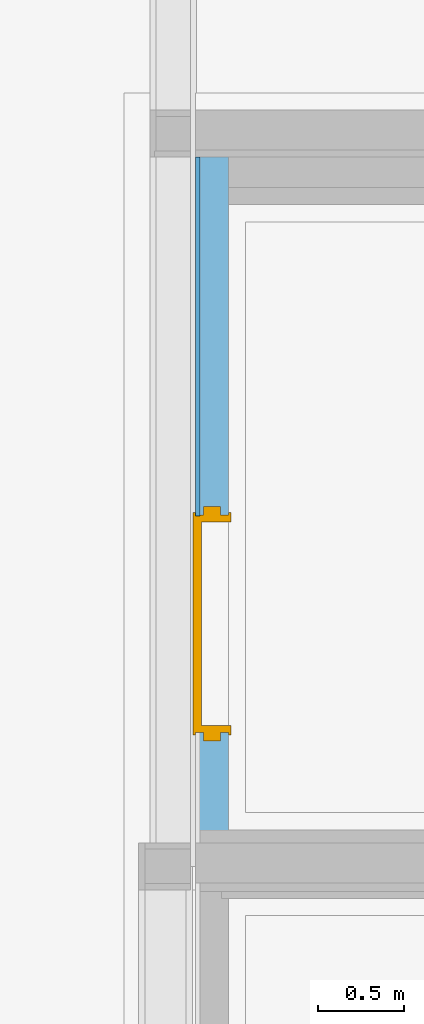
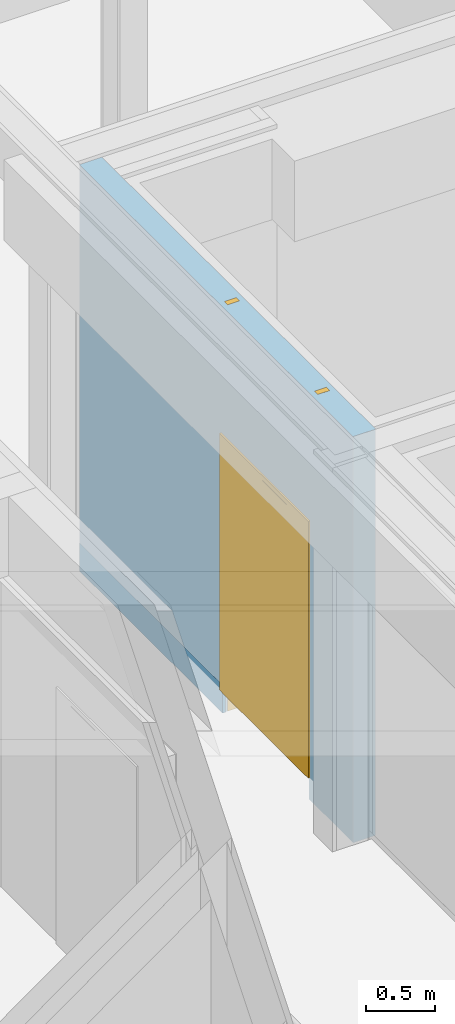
# One storey, part 128 of 207: 1 door, 1 wall, 1 opening, plus 1 element that does not belong to this part.
"""IFC4 building model written with IfcOpenShell, lengths in metres."""

from ifc_helpers import new_model, entity, si_unit, converted_unit, derived_unit, frame, frame_2d, origin, origin_with_axes, place, context, subcontext, project, spatial, polyline, rectangle, outline, extrude, faceted_brep, source, transform, mapped, material, type_object, element, fill, save


model = new_model("IFC4")

# Units and contexts
model_context = context("Model", 3, precision=1e-05, world=origin())
body_context = subcontext(model_context, "Body", "Model", "MODEL_VIEW")
ifc_project = project(units=[si_unit("LENGTHUNIT", "METRE"), si_unit("AREAUNIT", "SQUARE_METRE"), si_unit("VOLUMEUNIT", "CUBIC_METRE"), si_unit("MASSUNIT", "GRAM", prefix="KILO"), converted_unit("PLANEANGLEUNIT", "DEGREE", entity("IfcPlaneAngleMeasure", 0.0174532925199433), si_unit("PLANEANGLEUNIT", "RADIAN"), dimensions=[0, 0, 0, 0, 0, 0, 0]), derived_unit("THERMALTRANSMITTANCEUNIT", [(si_unit("POWERUNIT", "WATT"), 1), (si_unit("THERMODYNAMICTEMPERATUREUNIT", "KELVIN"), -1), (si_unit("LENGTHUNIT", "METRE"), -2)]), derived_unit("VOLUMETRICFLOWRATEUNIT", [(si_unit("LENGTHUNIT", "METRE"), 3), (converted_unit("TIMEUNIT", "hour", entity("IfcTimeMeasure", 3600.0), si_unit("TIMEUNIT", "SECOND"), dimensions=[0, 0, 1, 0, 0, 0, 0]), -1), (si_unit("LENGTHUNIT", "METRE"), -1)])], contexts=[model_context])

# Site, building, storey
site_placement = place(None, origin())
site = spatial("IfcSite", under=ifc_project, at=site_placement, Name="Psychiatrie Neubau Wunstorf", CompositionType="ELEMENT")
building_placement = place(site_placement, origin())
building = spatial("IfcBuilding", under=site, at=building_placement, Name="Neubau H2 Stationsgebäude", CompositionType="ELEMENT")
storey_placement = place(building_placement, frame((0.0, 0.0, -0.2)))
storey = spatial("IfcBuildingStorey", under=building, at=storey_placement, Name="H2 Ebene 0", CompositionType="ELEMENT", Elevation=-0.2)

# Wall, opening, door
ifc_material_1 = material(Name="WI-LB")
wall_1_placement = place(storey_placement, frame((70.43, 16.5605, 0.0), z_axis=(0.0, 0.0, 1.0), x_axis=(0.0, -1.0, 0.0)))
wall_1 = element("IfcWall", 1, at=wall_1_placement, inside=storey, material=ifc_material_1, context=body_context, shape_type="SweptSolid", body=[
    extrude(rectangle(XDim=3.9745, YDim=0.19, at=frame_2d((1.98725, 0.095), x_axis=(1.0, 0.0))), origin_with_axes(), (0.0, 0.0, 1.0), 3.6),
])
opening_placement = place(wall_1_placement, frame((3.3355, 0.19, 0.0), z_axis=(0.0, -1.0, 0.0), x_axis=(0.0, 0.0, 1.0)))
opening = element("IfcOpeningElement", 2, at=opening_placement, cuts=wall_1, Name="Türöffnung", ObjectType="Opening", context=body_context, shape_type="SweptSolid", body=[
    extrude(outline(polyline([(2.46, 1.26), (2.46, 0.0), (0.0, 0.0), (0.0, 1.26), (2.46, 1.26)])), origin_with_axes(), (0.0, 0.0, 1.0), 0.19),
])
ifc_material_2 = material(Name="TI-1F-UZ-ZK")
door_type = type_object("IfcDoorType", Name="SMT", OperationType="SINGLE_SWING_RIGHT", ParameterTakesPrecedence=False, PredefinedType="DOOR")
shared_shape_1 = source(origin_with_axes(), body_context, "Body", "Brep", [
    faceted_brep([(1.30999999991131, 0.0450000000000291, 0.0), (1.30999999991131, 0.145000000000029, 0.0), (1.26, 0.145000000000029, 0.0), (1.26, 0.0450000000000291, 0.0), (1.30999999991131, 0.145000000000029, 3.6), (1.30999999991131, 0.0450000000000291, 3.6), (1.26, 0.0450000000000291, 3.6), (1.26, 0.145000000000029, 3.6)], [[[0, 1, 2, 3]], [[4, 5, 6, 7]], [[1, 0, 5, 4]], [[2, 1, 4, 7]], [[3, 2, 7, 6]], [[0, 3, 6, 5]]], orient=[[False], [False], [False], [False], [False], [False]]),
    faceted_brep([(0.0, 0.0450000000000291, 0.0), (0.0, 0.145000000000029, 0.0), (-0.0499999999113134, 0.145000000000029, 0.0), (-0.0499999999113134, 0.0450000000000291, 0.0), (0.0, 0.145000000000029, 3.6), (0.0, 0.0450000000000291, 3.6), (-0.0499999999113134, 0.0450000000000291, 3.6), (-0.0499999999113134, 0.145000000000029, 3.6)], [[[0, 1, 2, 3]], [[4, 5, 6, 7]], [[1, 0, 5, 4]], [[2, 1, 4, 7]], [[3, 2, 7, 6]], [[0, 3, 6, 5]]], orient=[[False], [False], [False], [False], [False], [False]]),
    faceted_brep([(1.26, 0.0450000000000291, 2.46), (1.26, 0.145000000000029, 2.46), (0.0, 0.145000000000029, 2.46), (0.0, 0.0450000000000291, 2.46), (1.26, 0.145000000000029, 2.51), (1.26, 0.0450000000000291, 2.51), (0.0, 0.0450000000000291, 2.51), (0.0, 0.145000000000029, 2.51)], [[[0, 1, 2, 3]], [[4, 5, 6, 7]], [[1, 0, 5, 4]], [[2, 1, 4, 7]], [[3, 2, 7, 6]], [[0, 3, 6, 5]]], orient=[[False], [False], [False], [False], [False], [False]]),
])
shared_shape_2 = source(origin_with_axes(), body_context, "Body", "Brep", [
    faceted_brep([(0.0, -0.0149999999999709, 2.46), (0.0399999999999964, -0.0149999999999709, 2.46), (0.0399999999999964, -0.0149999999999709, 0.2), (0.0, -0.0149999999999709, 0.2), (0.0, 0.205000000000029, 0.2), (0.0399999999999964, 0.205000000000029, 0.2), (0.0399999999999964, 0.205000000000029, 2.46), (0.0, 0.205000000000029, 2.46)], [[[0, 1, 2, 3]], [[4, 5, 6, 7]], [[3, 4, 7, 0]], [[2, 5, 4, 3]], [[1, 6, 5, 2]], [[0, 7, 6, 1]]], orient=[[False], [False], [False], [False], [False], [False]]),
    faceted_brep([(0.0, -0.0149999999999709, 2.475), (0.0, -0.0149999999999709, 0.2), (-0.0150000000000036, -0.0149999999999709, 0.2), (-0.0150000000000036, -0.0149999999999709, 2.475), (0.0, 0.0, 0.2), (0.0, 0.0, 2.475), (-0.0150000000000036, 0.0, 2.475), (-0.0150000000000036, 0.0, 0.2)], [[[0, 1, 2, 3]], [[4, 5, 6, 7]], [[1, 0, 5, 4]], [[2, 1, 4, 7]], [[3, 2, 7, 6]], [[0, 3, 6, 5]]], orient=[[False], [False], [False], [False], [False], [False]]),
    faceted_brep([(0.0, 0.190000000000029, 2.475), (0.0, 0.190000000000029, 0.2), (-0.0150000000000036, 0.190000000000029, 0.2), (-0.0150000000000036, 0.190000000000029, 2.475), (0.0, 0.205000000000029, 0.2), (0.0, 0.205000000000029, 2.475), (-0.0150000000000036, 0.205000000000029, 2.475), (-0.0150000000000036, 0.205000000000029, 0.2)], [[[0, 1, 2, 3]], [[4, 5, 6, 7]], [[1, 0, 5, 4]], [[2, 1, 4, 7]], [[3, 2, 7, 6]], [[0, 3, 6, 5]]], orient=[[False], [False], [False], [False], [False], [False]]),
    faceted_brep([(1.22, -0.0149999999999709, 2.46), (1.26, -0.0149999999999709, 2.46), (1.26, -0.0149999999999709, 0.2), (1.22, -0.0149999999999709, 0.2), (1.22, 0.205000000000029, 0.2), (1.26, 0.205000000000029, 0.2), (1.26, 0.205000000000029, 2.46), (1.22, 0.205000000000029, 2.46)], [[[0, 1, 2, 3]], [[4, 5, 6, 7]], [[3, 4, 7, 0]], [[2, 5, 4, 3]], [[1, 6, 5, 2]], [[0, 7, 6, 1]]], orient=[[False], [False], [False], [False], [False], [False]]),
    faceted_brep([(1.26, -0.0149999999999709, 2.475), (1.275, -0.0149999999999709, 2.475), (1.275, -0.0149999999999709, 0.2), (1.26, -0.0149999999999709, 0.2), (1.26, 0.0, 0.2), (1.275, 0.0, 0.2), (1.275, 0.0, 2.475), (1.26, 0.0, 2.475)], [[[0, 1, 2, 3]], [[4, 5, 6, 7]], [[3, 4, 7, 0]], [[2, 5, 4, 3]], [[1, 6, 5, 2]], [[0, 7, 6, 1]]], orient=[[False], [False], [False], [False], [False], [False]]),
    faceted_brep([(1.26, 0.190000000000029, 2.475), (1.275, 0.190000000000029, 2.475), (1.275, 0.190000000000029, 0.2), (1.26, 0.190000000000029, 0.2), (1.26, 0.205000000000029, 0.2), (1.275, 0.205000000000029, 0.2), (1.275, 0.205000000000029, 2.475), (1.26, 0.205000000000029, 2.475)], [[[0, 1, 2, 3]], [[4, 5, 6, 7]], [[3, 4, 7, 0]], [[2, 5, 4, 3]], [[1, 6, 5, 2]], [[0, 7, 6, 1]]], orient=[[False], [False], [False], [False], [False], [False]]),
    faceted_brep([(0.0399999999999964, -0.0149999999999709, 2.46), (1.22, -0.0149999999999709, 2.46), (1.22, -0.0149999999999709, 2.42), (0.0399999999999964, -0.0149999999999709, 2.42), (0.0399999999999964, 0.205000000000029, 2.42), (1.22, 0.205000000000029, 2.42), (1.22, 0.205000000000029, 2.46), (0.0399999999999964, 0.205000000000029, 2.46)], [[[0, 1, 2, 3]], [[4, 5, 6, 7]], [[3, 4, 7, 0]], [[2, 5, 4, 3]], [[1, 6, 5, 2]], [[0, 7, 6, 1]]], orient=[[False], [False], [False], [False], [False], [False]]),
    faceted_brep([(0.0, -0.0149999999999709, 2.475), (1.26, -0.0149999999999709, 2.475), (1.26, -0.0149999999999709, 2.46), (0.0, -0.0149999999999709, 2.46), (0.0, 0.0, 2.46), (1.26, 0.0, 2.46), (1.26, 0.0, 2.475), (0.0, 0.0, 2.475)], [[[0, 1, 2, 3]], [[4, 5, 6, 7]], [[3, 4, 7, 0]], [[2, 5, 4, 3]], [[1, 6, 5, 2]], [[0, 7, 6, 1]]], orient=[[False], [False], [False], [False], [False], [False]]),
    faceted_brep([(0.0, 0.190000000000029, 2.475), (1.26, 0.190000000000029, 2.475), (1.26, 0.190000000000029, 2.46), (0.0, 0.190000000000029, 2.46), (0.0, 0.205000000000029, 2.46), (1.26, 0.205000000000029, 2.46), (1.26, 0.205000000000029, 2.475), (0.0, 0.205000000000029, 2.475)], [[[0, 1, 2, 3]], [[4, 5, 6, 7]], [[3, 4, 7, 0]], [[2, 5, 4, 3]], [[1, 6, 5, 2]], [[0, 7, 6, 1]]], orient=[[False], [False], [False], [False], [False], [False]]),
    faceted_brep([(0.0249999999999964, 0.156000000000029, 2.435), (1.235, 0.156000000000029, 2.435), (1.235, 0.156000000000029, 0.2), (0.0249999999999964, 0.156000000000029, 0.2), (0.0249999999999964, 0.206000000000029, 0.2), (1.235, 0.206000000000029, 0.2), (1.235, 0.206000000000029, 2.435), (0.0249999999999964, 0.206000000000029, 2.435)], [[[0, 1, 2, 3]], [[4, 5, 6, 7]], [[3, 4, 7, 0]], [[2, 5, 4, 3]], [[1, 6, 5, 2]], [[0, 7, 6, 1]]], orient=[[False], [False], [False], [False], [False], [False]]),
])
door_placement = place(opening_placement, frame((0.0, 0.0, 0.0), z_axis=(1.0, 0.0, 0.0), x_axis=(0.0, 1.0, 0.0)))
door = element("IfcDoor", 3, at=door_placement, inside=storey, type_object=door_type, material=ifc_material_2, Name="SMT", OverallHeight=2.46, OverallWidth=1.26, context=body_context, shape_type="MappedRepresentation", body=[
    mapped(shared_shape_1, transform((0.0, 0.0, 0.0), x_axis=(1.0, 0.0, 0.0), y_axis=(0.0, 1.0, 0.0), z_axis=(0.0, 0.0, 1.0), scale=1.0)),
    mapped(shared_shape_2, transform((0.0, 0.0, 0.0), x_axis=(1.0, 0.0, 0.0), y_axis=(0.0, 1.0, 0.0), z_axis=(0.0, 0.0, 1.0), scale=1.0)),
])
fill(opening, door)

# Wall
wall_2_placement = place(storey_placement, frame((70.43, 14.4805, 0.0)))
element("IfcWall", 4, at=wall_2_placement, inside=storey, Name="WV 1.1", context=body_context, shape_type="Brep", body=[
    faceted_brep([(0.025, 2.08, 0.0), (0.0, 2.08, 0.0), (0.0, 0.0, 0.0), (0.025, 0.0, 0.0), (0.0, 2.08, 0.25), (0.025, 2.08, 0.25), (0.025, 0.0, 0.25), (0.0, 0.0, 0.25)], [[[0, 1, 2, 3]], [[4, 5, 6, 7]], [[1, 0, 5, 4]], [[2, 1, 4, 7]], [[3, 2, 7, 6]], [[0, 3, 6, 5]]], orient=[[False], [False], [False], [False], [False], [False]]),
])

save(model, "model.ifc")
